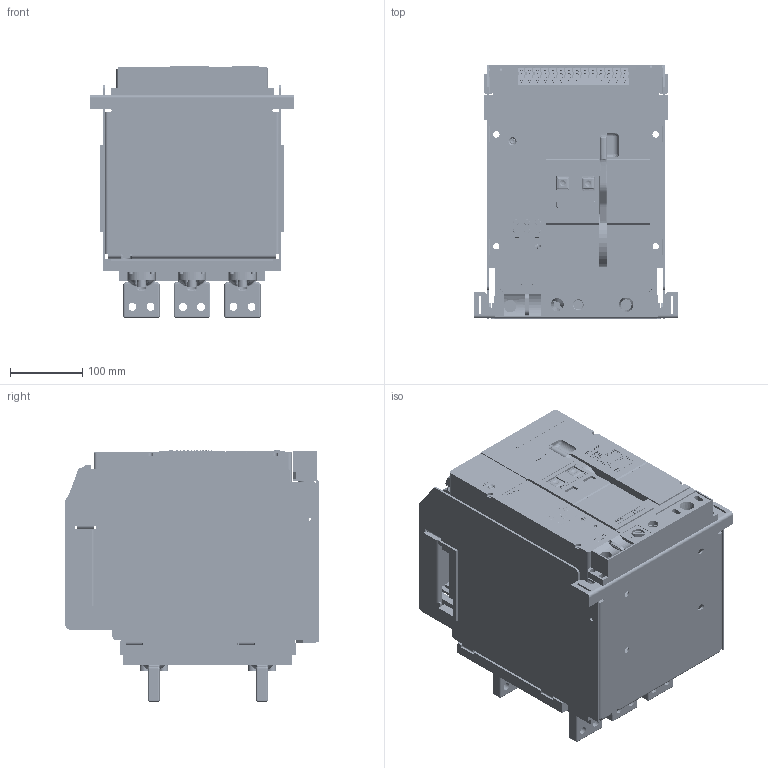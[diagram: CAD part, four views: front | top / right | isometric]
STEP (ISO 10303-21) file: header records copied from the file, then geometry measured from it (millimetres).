
FILE_DESCRIPTION((''),'2;1');
FILE_NAME('NA8-1600-3P-D-1000A-1600A-H_ASM','2021-11-05T16:24:35',('lcc'),(''),'CREO PARAMETRIC BY PTC INC, 2020044','CREO PARAMETRIC BY PTC INC, 2020044','');
FILE_SCHEMA(('CONFIG_CONTROL_DESIGN','SHAPE_APPEARANCE_LAYERS_GROUPS'));
Products named in the file (47): 8050A0306004T; 8050A0305001T; 8050A0305002T; 8ZTD-300-462; 5300A0203002V1; 8300A0203002; 16-3P-DIJIA01; 8ZTD-060-205; 8ZTD-321-089; 8ZTD-253-775; 8ZTD-253-776; 8ZTD-281-1000; 8282A0820014; 8ZTD-253-577; 8ZTD-235-356; 5ZTD-302-018_ASM; 8ZTD_210_353; 5ZTD_253_424_1; 5ZTD_253_424_2; 5ZTD_253_424_3; 5ZTD_253_424_4; 5ZTD_253_424_5; 5ZTD_253_424_6; 5ZTD_253_424_7; 5ZTD_253_424_8; 5ZTD_253_424_9; 5ZTD_253_424_10; 5ZTD_253_424_ASM; 8ZTD-253-424_ASM; 8ZTD-064-138; 8ZTD-024-689; 5ZTD-558-467_ASM; 8ZTD-860-511; 5ZTD-558-466_ASM; 8-441-081N; 8-860-349; 8-141-125; 8-040-432; 8-004-030; 8-320-094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
Assembly tree (76 placements, depth 5):
  NA8-1600-3P-D-1000A-1600A-H_ASM
    NA8-1600-3P-DO_ASM
      8050A0306004T
      8050A0305001T
      8050A0305002T
      8ZTD-300-462
      5300A0203002V1
      8300A0203002
      16-3P-DIJIA01
      5ZTD-302-018_ASM
        8ZTD-060-205
        8ZTD-321-089
        8ZTD-253-775
        8ZTD-253-776
        8ZTD-281-1000  x2
        8282A0820014
        8ZTD-253-577
        8ZTD-235-356
      8ZTD-253-424_ASM
        5ZTD_253_424_ASM
          8ZTD_210_353
          5ZTD_253_424_1
          5ZTD_253_424_2
          5ZTD_253_424_3
          5ZTD_253_424_4
          5ZTD_253_424_5
          5ZTD_253_424_6
          5ZTD_253_424_7
          5ZTD_253_424_8
          5ZTD_253_424_9
          5ZTD_253_424_10
      5ZTD-558-466_ASM
        8ZTD-064-138
        5ZTD-558-467_ASM  x14
          8ZTD-024-689
        8ZTD-860-511
      8-441-081N
      8-860-349
      8-141-125
      8-040-432
      8-004-030
      8-320-094
      8-860-KZQ
    8580A0412004  x6
    QNKJ0200012_ASM  x12
      GBT70_1-M8X20
      GBT93-8
Bounding box: 282 x 351 x 348.5 mm (x, y, z)
Volume: 6752480.1 mm3; surface area: 1802108 mm2
Topology: 80 solids, 170 shells, 9572 faces, 25966 edges, 16986 vertices
Faces by surface type: plane 6647, cylinder 1472, extrusion 790, bspline 313, cone 221, torus 84, sphere 45
Entity records: 329534 total; most frequent: CARTESIAN_POINT 70456, ORIENTED_EDGE 36556, DIRECTION 32092, PRESENTATION_STYLE_ASSIGNMENT 23026, STYLED_ITEM 22885, CURVE_STYLE 18588, EDGE_CURVE 18547, VECTOR 14904
